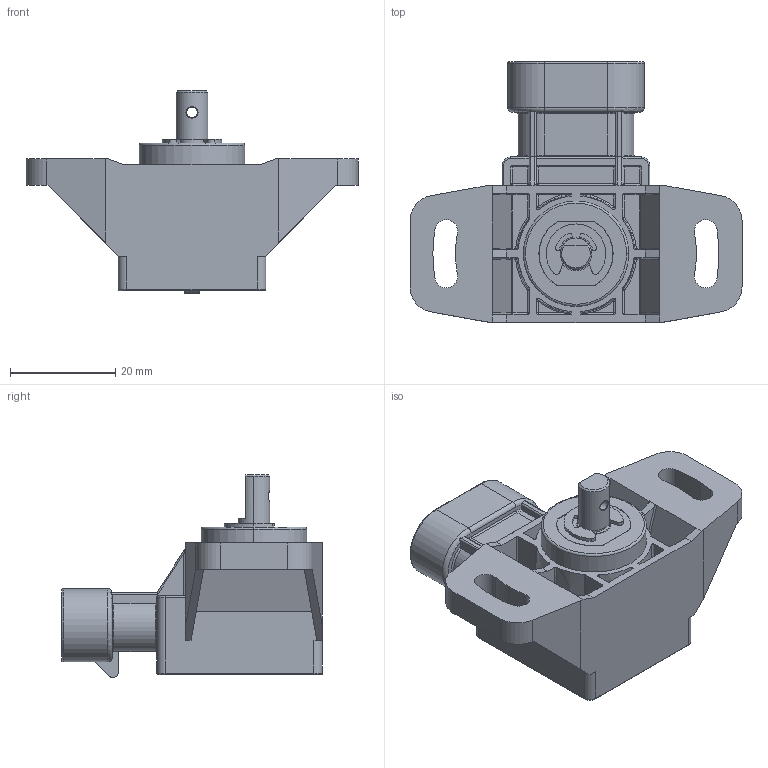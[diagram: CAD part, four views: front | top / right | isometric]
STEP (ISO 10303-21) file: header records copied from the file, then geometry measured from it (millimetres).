
FILE_DESCRIPTION (( 'STEP AP203' ), '1' );
FILE_NAME ('GR3PA S5E1LS xxx xxxx X0.STEP', '2024-12-19T15:19:32', ( '' ), ( '' ), 'SwSTEP 2.0', 'SolidWorks 2024', '' );
FILE_SCHEMA (( 'CONFIG_CONTROL_DESIGN' ));
Length unit declared in the file: millimetre
Products named in the file (1): GR3PA S5E1LS xxx xxxx X0
Bounding box: 63 x 49.5 x 38.47 mm (x, y, z)
Volume: 25036.5 mm3; surface area: 12804 mm2
Topology: 7 solids, 7 shells, 533 faces, 1314 edges, 783 vertices
Faces by surface type: plane 210, cylinder 188, bspline 46, sphere 40, torus 36, cone 13
Entity records: 18194 total; most frequent: CARTESIAN_POINT 5923, ORIENTED_EDGE 2556, DIRECTION 2527, EDGE_CURVE 1278, AXIS2_PLACEMENT_3D 922, VERTEX_POINT 783, VECTOR 683, LINE 683
